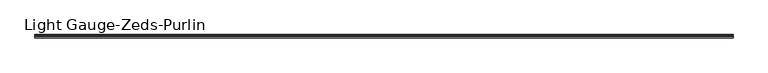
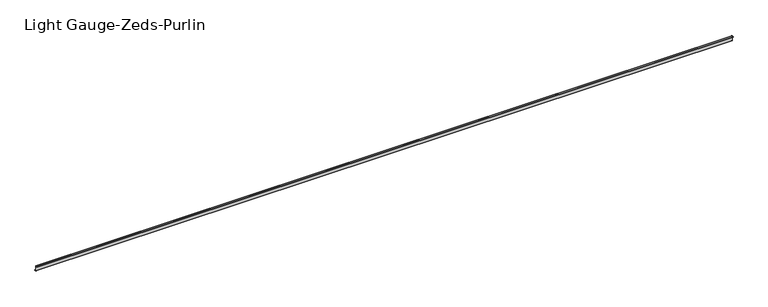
"""IFC4 building model written with IfcOpenShell, lengths in millimetres: beam geometry, Light Gauge-Zeds-Purlin : Metsec-202Z20."""

from ifc_helpers import new_model, si_unit, point, frame, frame_2d, origin, place, context, project, spatial, polyline, circle_curve, trimmed, segment, composite_curve, outline, extrude, source, transform, mapped, element, save


def light_gauge_zeds_purlin_c0125321(model_context):
    return source(origin(), model_context, "Body", "SweptSolid", [
        extrude(outline(composite_curve([segment(trimmed(circle_curve(frame_2d((55.8, -97.9)), 4.0), [point((59.8, -97.9))], [point((55.8, -101.9))], False, "CARTESIAN"), True, "CONTINUOUS"), segment(polyline([(55.8, -101.9), (3.8, -101.9)]), True, "CONTINUOUS"), segment(trimmed(circle_curve(frame_2d((3.8, -97.9)), 4.0), [point((3.8, -101.9))], [point((-0.2, -97.9))], False, "CARTESIAN"), True, "CONTINUOUS"), segment(polyline([(-0.2, -97.9), (-0.2, 96.1)]), True, "CONTINUOUS"), segment(trimmed(circle_curve(frame_2d((-2.2, 96.1)), 2.0), [point((-0.2, 96.1))], [point((-2.2, 98.1))], True, "CARTESIAN"), True, "CONTINUOUS"), segment(polyline([(-2.2, 98.1), (-59.2, 98.1)]), True, "CONTINUOUS"), segment(trimmed(circle_curve(frame_2d((-59.2, 96.1)), 2.0), [point((-59.2, 98.1))], [point((-61.2, 96.1))], True, "CARTESIAN"), True, "CONTINUOUS"), segment(polyline([(-61.2, 96.1), (-61.2, 81.1), (-63.2, 81.1), (-63.2, 96.1)]), True, "CONTINUOUS"), segment(trimmed(circle_curve(frame_2d((-59.2, 96.1)), 4.0), [point((-63.2, 96.1))], [point((-59.2, 100.1))], False, "CARTESIAN"), True, "CONTINUOUS"), segment(polyline([(-59.2, 100.1), (-2.2, 100.1)]), True, "CONTINUOUS"), segment(trimmed(circle_curve(frame_2d((-2.2, 96.1)), 4.0), [point((-2.2, 100.1))], [point((1.8, 96.1))], False, "CARTESIAN"), True, "CONTINUOUS"), segment(polyline([(1.8, 96.1), (1.8, -97.9)]), True, "CONTINUOUS"), segment(trimmed(circle_curve(frame_2d((3.8, -97.9)), 2.0), [point((1.8, -97.9))], [point((3.8, -99.9))], True, "CARTESIAN"), True, "CONTINUOUS"), segment(polyline([(3.8, -99.9), (55.8, -99.9)]), True, "CONTINUOUS"), segment(trimmed(circle_curve(frame_2d((55.8, -97.9)), 2.0), [point((55.8, -99.9))], [point((57.8, -97.9))], True, "CARTESIAN"), True, "CONTINUOUS"), segment(polyline([(57.8, -97.9), (57.8, -80.9), (59.8, -80.9), (59.8, -97.9)]), True, "CONTINUOUS")], self_intersect=False)), frame((-12982.0, 0.0, 0.0), z_axis=(1.0, 0.0, 0.0), x_axis=(0.0, 1.0, 0.0)), (0.0, 0.0, 1.0), 25954.0),
    ])


if __name__ == "__main__":
    model = new_model("IFC4")
    model_context = context("Model", 3, world=origin())
    ifc_project = project(units=[si_unit("LENGTHUNIT", "METRE", prefix="MILLI")], contexts=[model_context])
    site = spatial("IfcSite", under=ifc_project)
    building = spatial("IfcBuilding", under=site)
    placement = place(None, origin())
    light_gauge_zeds_purlin_shape = light_gauge_zeds_purlin_c0125321(model_context)
    element("IfcBeam", 1, ObjectType="Light Gauge-Zeds-Purlin : Metsec-202Z20", at=placement, inside=building, context=model_context, shape_type="MappedRepresentation", body=[
        mapped(light_gauge_zeds_purlin_shape, transform((0.0, 0.0, 0.0), x_axis=(1.0, 0.0, 0.0), y_axis=(0.0, 1.0, 0.0), z_axis=(0.0, 0.0, 1.0))),
    ])
    save(model, "model.ifc")
